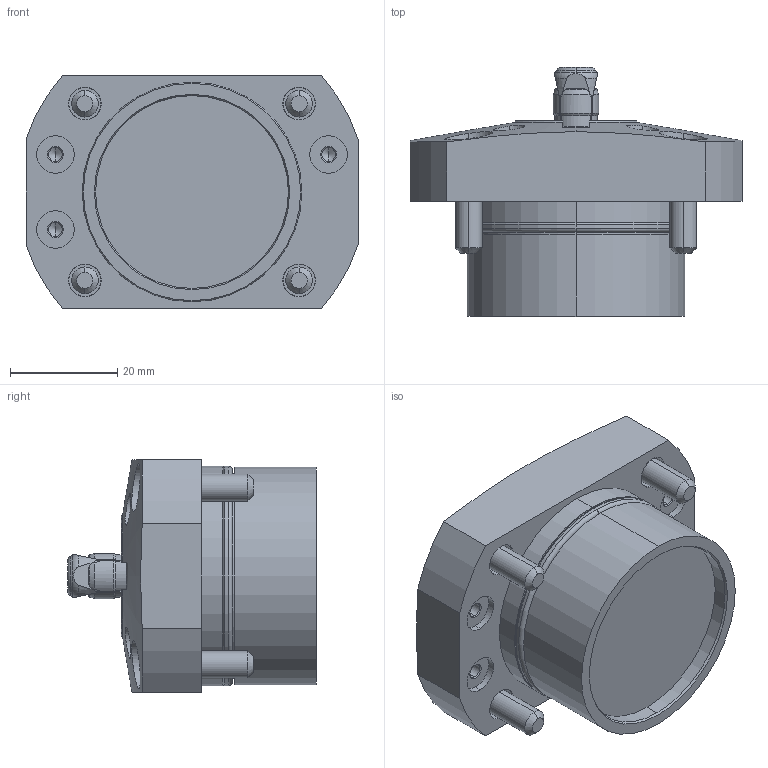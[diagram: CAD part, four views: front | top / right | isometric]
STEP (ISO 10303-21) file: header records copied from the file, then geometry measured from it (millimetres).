
FILE_DESCRIPTION (( 'STEP AP203' ), '1' );
FILE_NAME ('SFH2090_N.STEP', '2010-11-03T23:05:08', ( ' ' ), ( ' ' ), 'SwSTEP 2.0', 'SolidWorks 2010', '' );
FILE_SCHEMA (( 'CONFIG_CONTROL_DESIGN' ));
Length unit declared in the file: millimetre
Products named in the file (7): SFH2090_N; 6妏寠晅无倌_M5_16; 6妏寠晅无倌_M3_10; SFH2090-N_套菁轤礁诎蔬晅; SFH2_钾堇轤O剌皋晅; φ9_ｽﾘｰﾌﾞ-N; 冇9_郫霓
Assembly tree (12 placements, depth 2):
  SFH2090_N
    6妏寠晅无倌_M5_16  x4
    6妏寠晅无倌_M3_10  x4
    SFH2090-N_套菁轤礁诎蔬晅
    冇9_郫霓
    SFH2_钾堇轤O剌皋晅
    φ9_ｽﾘｰﾌﾞ-N
Bounding box: 62 x 46.5 x 43.5 mm (x, y, z)
Volume: 58358.9 mm3; surface area: 20751.1 mm2
Topology: 16 solids, 16 shells, 478 faces, 971 edges, 536 vertices
Faces by surface type: plane 187, cone 156, cylinder 118, torus 17
Entity records: 9655 total; most frequent: CARTESIAN_POINT 2320, DIRECTION 1434, ORIENTED_EDGE 1270, EDGE_CURVE 635, AXIS2_PLACEMENT_3D 598, VERTEX_POINT 386, EDGE_LOOP 333, ADVANCED_FACE 292
